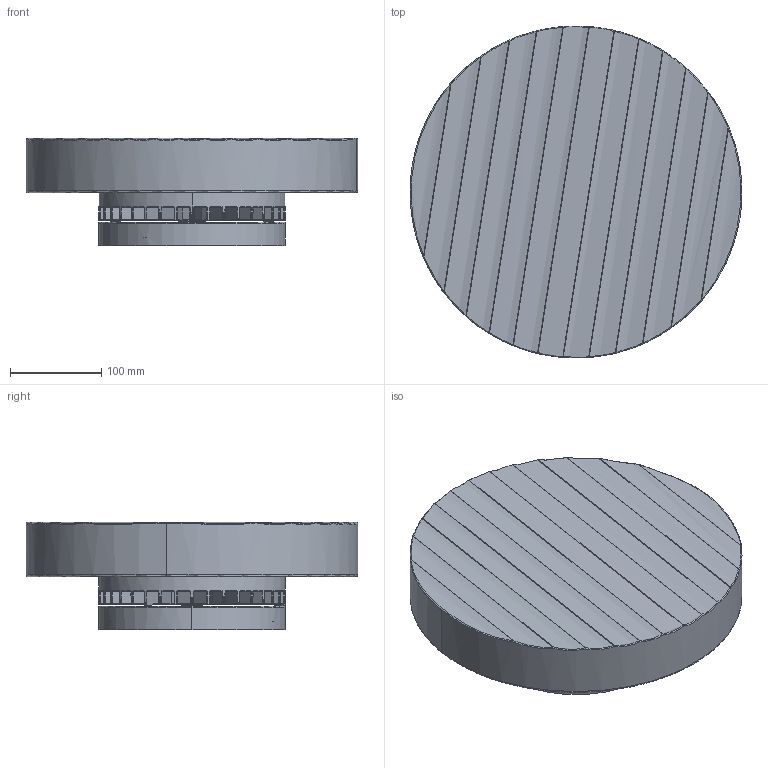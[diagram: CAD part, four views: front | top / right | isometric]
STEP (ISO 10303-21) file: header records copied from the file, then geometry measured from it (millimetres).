
FILE_DESCRIPTION(/* description */ (''),/* implementation_level */ '2;1');
FILE_NAME(/* name */ 'Cotê P060__.035',/* time_stamp */ '2025-05-26T16:56:00+02:00',/* author */ (''),/* organization */ (''),/* preprocessor_version */ 'ST-DEVELOPER v16.5',/* originating_system */ '',/* authorisation */ '');
FILE_SCHEMA (('AUTOMOTIVE_DESIGN'));
Length unit declared in the file: millimetre
Products named in the file (1): Document
Bounding box: 363.95 x 363.98 x 118.36 mm (x, y, z)
Volume: 331384.8 mm3; surface area: 728399.4 mm2
Topology: 2 solids, 105 shells, 1249 faces, 3196 edges, 1985 vertices
Faces by surface type: bspline 1026, plane 223
Entity records: 63319 total; most frequent: CARTESIAN_POINT 46137, ORIENTED_EDGE 5816, EDGE_CURVE 3124, VERTEX_POINT 1985, B_SPLINE_CURVE_WITH_KNOTS 1393, EDGE_LOOP 1301, ADVANCED_FACE 1249, FACE_OUTER_BOUND 1249
